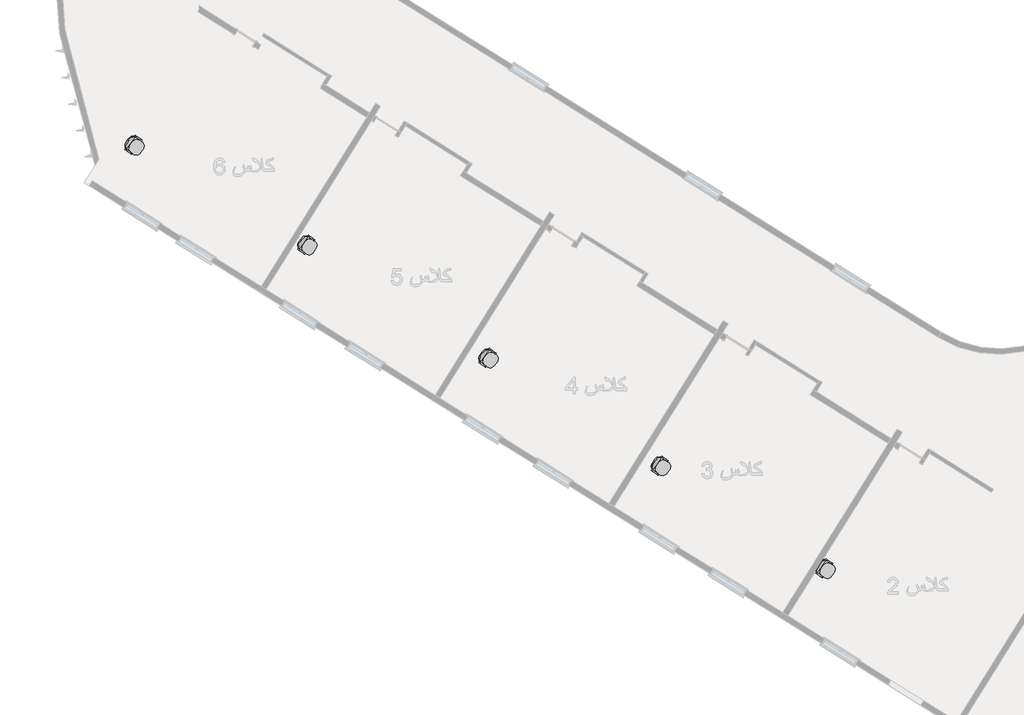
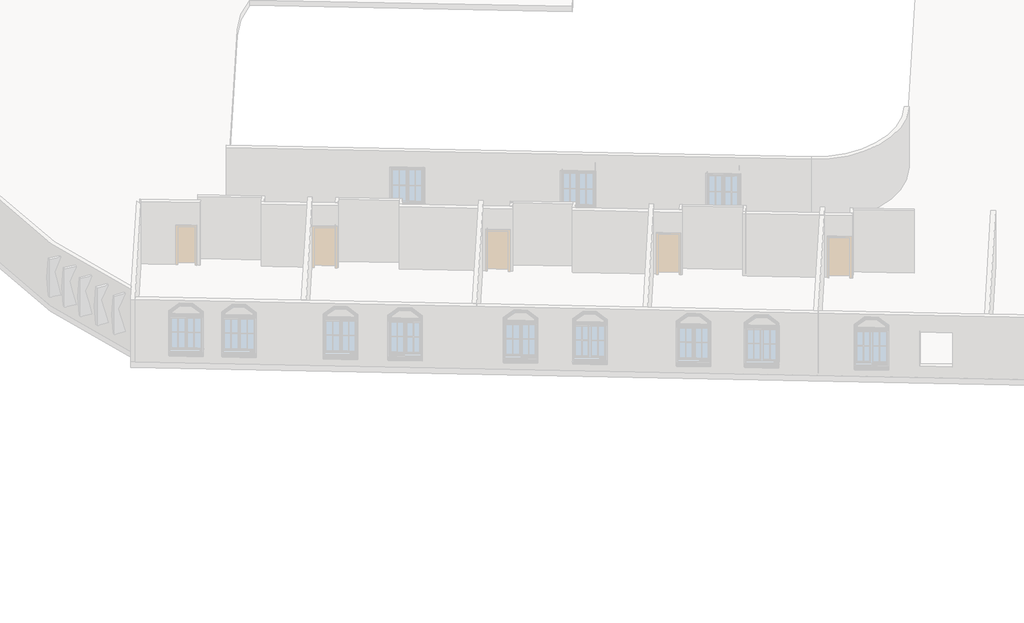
# One storey, part 5 of 12: 5 furniture elements.
"""IFC4 building model written with IfcOpenShell, lengths in millimetres."""

from ifc_helpers import new_model, si_unit, origin, place, context, project, spatial, transform, mapped, element, save
from components import chair_executive_chair_executive_328c2b5c

model = new_model("IFC4")

# Units and contexts
model_context = context("Model", 3, world=origin())
ifc_project = project(units=[si_unit("LENGTHUNIT", "METRE", prefix="MILLI")], contexts=[model_context])

# Site, building, storey
site = spatial("IfcSite", under=ifc_project)
building = spatial("IfcBuilding", under=site)
storey = spatial("IfcBuildingStorey", under=building, Name="\u200fهمکف", Elevation=0.0)

# Furniture
placement = place(None, origin())
chair_executive_chair_executive_shape = chair_executive_chair_executive_328c2b5c(model_context)
element("IfcFurniture", 1, ObjectType="Chair-Executive : Chair-Executive", at=placement, inside=storey, context=model_context, shape_type="MappedRepresentation", body=[
    mapped(chair_executive_chair_executive_shape, transform((6233.8669217, -42534.9553438, -426.539034), x_axis=(-0.5881078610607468, -0.8087825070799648, 0.0), y_axis=(0.8087825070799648, -0.5881078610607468, 0.0), z_axis=(0.0, 0.0, 1.0))),
])
element("IfcFurniture", 2, ObjectType="Chair-Executive : Chair-Executive", at=placement, inside=storey, context=model_context, shape_type="MappedRepresentation", body=[
    mapped(chair_executive_chair_executive_shape, transform((12469.249829, -46134.9553438, -426.539034), x_axis=(-0.5881078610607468, -0.8087825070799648, 0.0), y_axis=(0.8087825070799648, -0.5881078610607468, 0.0), z_axis=(0.0, 0.0, 1.0))),
])
element("IfcFurniture", 3, ObjectType="Chair-Executive : Chair-Executive", at=placement, inside=storey, context=model_context, shape_type="MappedRepresentation", body=[
    mapped(chair_executive_chair_executive_shape, transform((19004.5294809, -50218.6513044, -426.539034), x_axis=(-0.5881078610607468, -0.8087825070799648, 0.0), y_axis=(0.8087825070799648, -0.5881078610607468, 0.0), z_axis=(0.0, 0.0, 1.0))),
])
element("IfcFurniture", 4, ObjectType="Chair-Executive : Chair-Executive", at=placement, inside=storey, context=model_context, shape_type="MappedRepresentation", body=[
    mapped(chair_executive_chair_executive_shape, transform((25228.3824663, -54107.7462858, -426.539034), x_axis=(-0.5881078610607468, -0.8087825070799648, 0.0), y_axis=(0.8087825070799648, -0.5881078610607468, 0.0), z_axis=(0.0, 0.0, 1.0))),
])
element("IfcFurniture", 5, ObjectType="Chair-Executive : Chair-Executive", at=placement, inside=storey, context=model_context, shape_type="MappedRepresentation", body=[
    mapped(chair_executive_chair_executive_shape, transform((31164.7191394, -57817.1811354, -426.539034), x_axis=(-0.5881078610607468, -0.8087825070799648, 0.0), y_axis=(0.8087825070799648, -0.5881078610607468, 0.0), z_axis=(0.0, 0.0, 1.0))),
])

save(model, "model.ifc")
